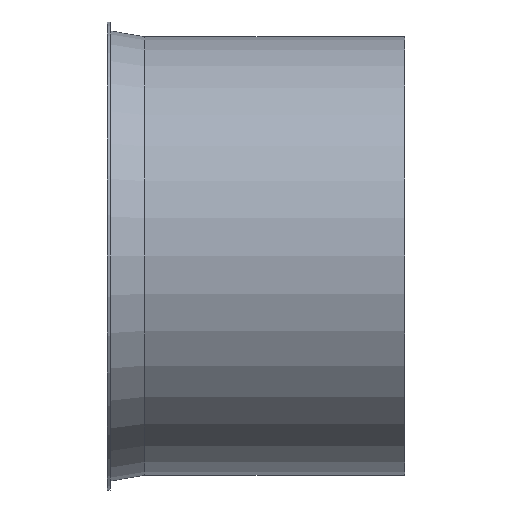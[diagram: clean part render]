
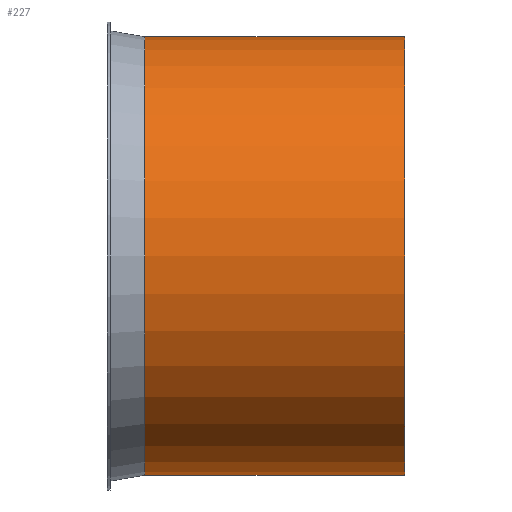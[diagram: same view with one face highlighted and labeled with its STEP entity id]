
A CAD part, front view. The second image highlights one B-rep face of the part: STEP entity #227.
In plain terms, the highlighted cylindrical face has radius 147.5 mm (diameter 295 mm), a full revolution.
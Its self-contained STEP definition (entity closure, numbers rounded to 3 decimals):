
#132=CARTESIAN_POINT('',(-2.081,46.834,0.0));
#133=VERTEX_POINT('',#132);
#134=CARTESIAN_POINT('',(-2.081,194.334,0.0));
#135=DIRECTION('',(-1.0,0.0,0.0));
#136=DIRECTION('',(0.0,-1.0,0.0));
#137=AXIS2_PLACEMENT_3D('',#134,#135,#136);
#138=CIRCLE('',#137,147.5);
#139=EDGE_CURVE('',#133,#133,#138,.T.);
#201=CARTESIAN_POINT('',(172.919,46.834,0.0));
#202=VERTEX_POINT('',#201);
#203=CARTESIAN_POINT('',(172.919,194.334,0.0));
#204=DIRECTION('',(-1.0,0.0,0.0));
#205=DIRECTION('',(0.0,-1.0,0.0));
#206=AXIS2_PLACEMENT_3D('',#203,#204,#205);
#207=CIRCLE('',#206,147.5);
#208=EDGE_CURVE('',#202,#202,#207,.T.);
#216=CARTESIAN_POINT('',(85.419,194.334,0.0));
#217=DIRECTION('',(-1.0,0.0,0.0));
#218=DIRECTION('',(0.0,-1.0,0.0));
#219=AXIS2_PLACEMENT_3D('',#216,#217,#218);
#220=CYLINDRICAL_SURFACE('',#219,147.5);
#221=ORIENTED_EDGE('',*,*,#139,.F.);
#222=EDGE_LOOP('',(#221));
#223=FACE_OUTER_BOUND('',#222,.T.);
#224=ORIENTED_EDGE('',*,*,#208,.T.);
#225=EDGE_LOOP('',(#224));
#226=FACE_BOUND('',#225,.T.);
#227=ADVANCED_FACE('',(#223,#226),#220,.T.);
